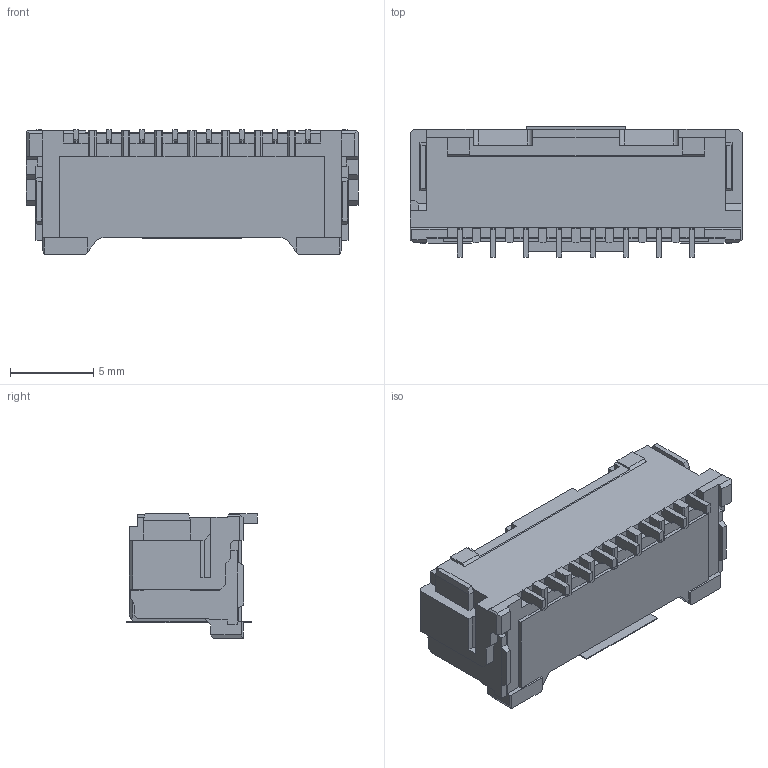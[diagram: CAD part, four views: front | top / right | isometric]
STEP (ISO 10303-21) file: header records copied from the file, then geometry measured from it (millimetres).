
FILE_DESCRIPTION((''),'2;1');
FILE_NAME('5024430860','2018-03-15T',('ksrinivasara'),(''),'PRO/ENGINEER BY PARAMETRIC TECHNOLOGY CORPORATION, 2012310','PRO/ENGINEER BY PARAMETRIC TECHNOLOGY CORPORATION, 2012310','');
FILE_SCHEMA(('CONFIG_CONTROL_DESIGN'));
Length unit declared in the file: millimetre
Products named in the file (1): 5024430860
Bounding box: 20 x 7.85 x 7.5 mm (x, y, z)
Volume: 447.3 mm3; surface area: 1129.3 mm2
Topology: 2 solids, 2 shells, 581 faces, 1719 edges, 1131 vertices
Faces by surface type: plane 519, cylinder 60, cone 2
Entity records: 19045 total; most frequent: CARTESIAN_POINT 3479, ORIENTED_EDGE 3358, DIRECTION 2971, EDGE_CURVE 1679, VECTOR 1587, LINE 1587, VERTEX_POINT 1091, AXIS2_PLACEMENT_3D 692
